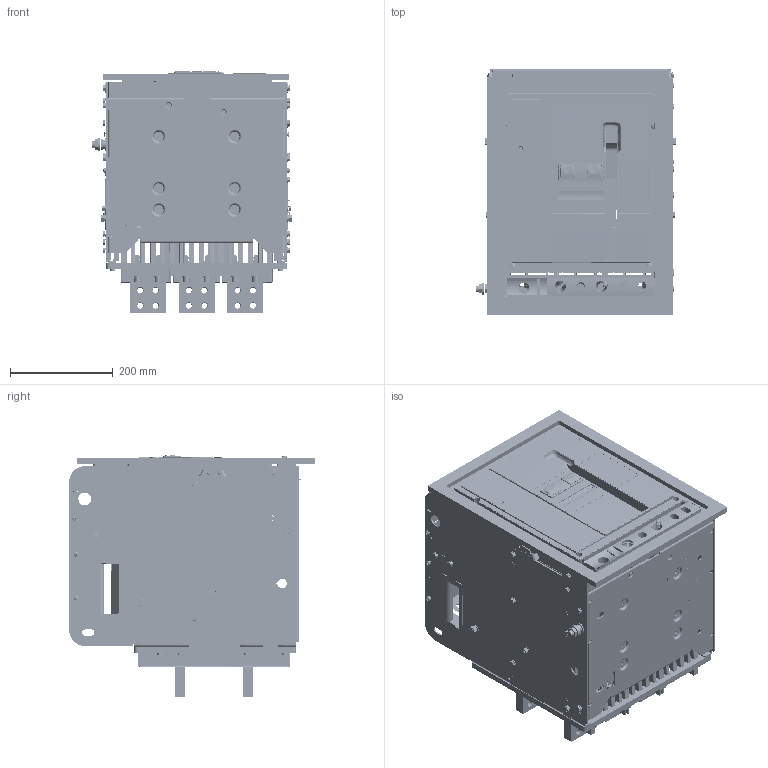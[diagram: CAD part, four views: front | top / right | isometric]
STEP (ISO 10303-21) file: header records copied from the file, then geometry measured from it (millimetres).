
FILE_DESCRIPTION (( 'STEP AP214' ), '1' );
FILE_NAME ('TEW5-2500 D 3P.STEP', '2026-04-06T11:24:27', ( '' ), ( '' ), 'SwSTEP 2.0', 'SolidWorks 2024', '' );
FILE_SCHEMA (( 'AUTOMOTIVE_DESIGN' ));
Products named in the file (1): TEW5-2500 D 3P
Bounding box: 392 x 478.5 x 473.6 mm (x, y, z)
Surface area: 2778631.8 mm2 (no closed solid volume)
Topology: 0 solids, 1855 shells, 4712 faces, 23244 edges, 19858 vertices
Faces by surface type: plane 2518, cylinder 1321, torus 393, cone 357, bspline 96, sphere 27
Entity records: 378372 total; most frequent: CARTESIAN_POINT 228381, ORIENTED_EDGE 28461, EDGE_CURVE 23195, VERTEX_POINT 19849, DIRECTION 19603, B_SPLINE_CURVE_WITH_KNOTS 14523, LINE 6865, VECTOR 6865
